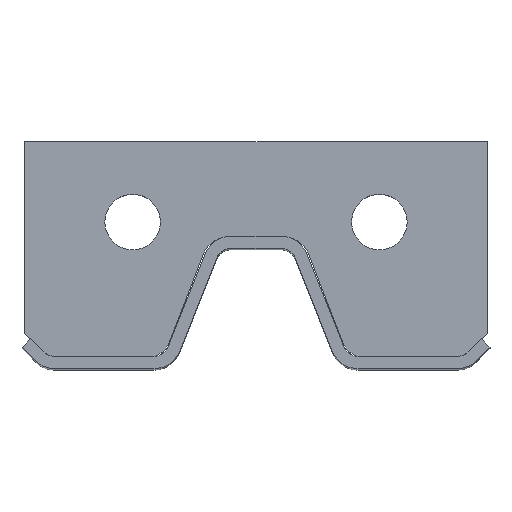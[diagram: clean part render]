
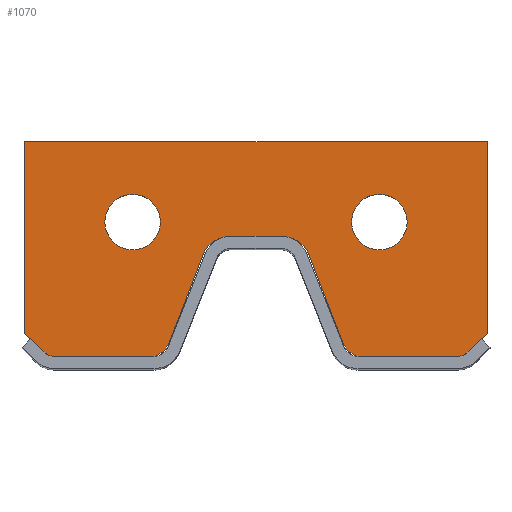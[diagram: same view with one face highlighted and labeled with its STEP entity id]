
A CAD part, top view. The second image highlights one B-rep face of the part: STEP entity #1070.
In plain terms, the highlighted planar face has unit normal (0, 0, 1).
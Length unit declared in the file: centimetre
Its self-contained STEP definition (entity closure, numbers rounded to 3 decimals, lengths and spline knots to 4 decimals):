
#40=FACE_BOUND('',#107,.T.);
#41=FACE_BOUND('',#108,.T.);
#52=FACE_OUTER_BOUND('',#106,.T.);
#106=EDGE_LOOP('',(#716,#717,#718,#719,#720,#721,#722,#723,#724,#725,#726,
#727,#728,#729,#730,#731,#732,#733));
#107=EDGE_LOOP('',(#734));
#108=EDGE_LOOP('',(#735));
#172=CIRCLE('',#1127,0.8);
#173=CIRCLE('',#1128,0.8);
#174=CIRCLE('',#1129,0.8);
#175=CIRCLE('',#1130,0.8);
#176=CIRCLE('',#1131,0.8);
#177=CIRCLE('',#1132,0.8);
#178=CIRCLE('',#1133,0.9);
#179=CIRCLE('',#1134,0.9);
#220=LINE('',#1552,#334);
#221=LINE('',#1554,#335);
#222=LINE('',#1556,#336);
#223=LINE('',#1560,#337);
#224=LINE('',#1564,#338);
#225=LINE('',#1568,#339);
#226=LINE('',#1570,#340);
#227=LINE('',#1572,#341);
#228=LINE('',#1576,#342);
#229=LINE('',#1580,#343);
#230=LINE('',#1584,#344);
#231=LINE('',#1585,#345);
#334=VECTOR('',#1232,0.1);
#335=VECTOR('',#1233,0.1);
#336=VECTOR('',#1234,0.1);
#337=VECTOR('',#1237,0.1);
#338=VECTOR('',#1240,0.1);
#339=VECTOR('',#1243,0.1);
#340=VECTOR('',#1244,0.1);
#341=VECTOR('',#1245,0.1);
#342=VECTOR('',#1248,0.1);
#343=VECTOR('',#1251,0.1);
#344=VECTOR('',#1254,0.1);
#345=VECTOR('',#1255,0.1);
#448=VERTEX_POINT('',#1550);
#449=VERTEX_POINT('',#1551);
#450=VERTEX_POINT('',#1553);
#451=VERTEX_POINT('',#1555);
#452=VERTEX_POINT('',#1557);
#453=VERTEX_POINT('',#1559);
#454=VERTEX_POINT('',#1561);
#455=VERTEX_POINT('',#1563);
#456=VERTEX_POINT('',#1565);
#457=VERTEX_POINT('',#1567);
#458=VERTEX_POINT('',#1569);
#459=VERTEX_POINT('',#1571);
#460=VERTEX_POINT('',#1573);
#461=VERTEX_POINT('',#1575);
#462=VERTEX_POINT('',#1577);
#463=VERTEX_POINT('',#1579);
#464=VERTEX_POINT('',#1581);
#465=VERTEX_POINT('',#1583);
#466=VERTEX_POINT('',#1586);
#467=VERTEX_POINT('',#1588);
#554=EDGE_CURVE('',#448,#449,#220,.T.);
#555=EDGE_CURVE('',#449,#450,#221,.T.);
#556=EDGE_CURVE('',#450,#451,#222,.T.);
#557=EDGE_CURVE('',#451,#452,#172,.T.);
#558=EDGE_CURVE('',#453,#452,#223,.T.);
#559=EDGE_CURVE('',#453,#454,#173,.T.);
#560=EDGE_CURVE('',#454,#455,#224,.T.);
#561=EDGE_CURVE('',#455,#456,#174,.T.);
#562=EDGE_CURVE('',#456,#457,#225,.T.);
#563=EDGE_CURVE('',#458,#457,#226,.T.);
#564=EDGE_CURVE('',#458,#459,#227,.T.);
#565=EDGE_CURVE('',#459,#460,#175,.T.);
#566=EDGE_CURVE('',#460,#461,#228,.T.);
#567=EDGE_CURVE('',#461,#462,#176,.T.);
#568=EDGE_CURVE('',#463,#462,#229,.T.);
#569=EDGE_CURVE('',#463,#464,#177,.T.);
#570=EDGE_CURVE('',#464,#465,#230,.T.);
#571=EDGE_CURVE('',#465,#448,#231,.T.);
#572=EDGE_CURVE('',#466,#466,#178,.T.);
#573=EDGE_CURVE('',#467,#467,#179,.T.);
#716=ORIENTED_EDGE('',*,*,#554,.T.);
#717=ORIENTED_EDGE('',*,*,#555,.T.);
#718=ORIENTED_EDGE('',*,*,#556,.T.);
#719=ORIENTED_EDGE('',*,*,#557,.T.);
#720=ORIENTED_EDGE('',*,*,#558,.F.);
#721=ORIENTED_EDGE('',*,*,#559,.T.);
#722=ORIENTED_EDGE('',*,*,#560,.T.);
#723=ORIENTED_EDGE('',*,*,#561,.T.);
#724=ORIENTED_EDGE('',*,*,#562,.T.);
#725=ORIENTED_EDGE('',*,*,#563,.F.);
#726=ORIENTED_EDGE('',*,*,#564,.T.);
#727=ORIENTED_EDGE('',*,*,#565,.T.);
#728=ORIENTED_EDGE('',*,*,#566,.T.);
#729=ORIENTED_EDGE('',*,*,#567,.T.);
#730=ORIENTED_EDGE('',*,*,#568,.F.);
#731=ORIENTED_EDGE('',*,*,#569,.T.);
#732=ORIENTED_EDGE('',*,*,#570,.T.);
#733=ORIENTED_EDGE('',*,*,#571,.T.);
#734=ORIENTED_EDGE('',*,*,#572,.T.);
#735=ORIENTED_EDGE('',*,*,#573,.T.);
#1040=PLANE('',#1126);
#1070=ADVANCED_FACE('',(#52,#40,#41),#1040,.T.);
#1126=AXIS2_PLACEMENT_3D('',#1549,#1230,#1231);
#1127=AXIS2_PLACEMENT_3D('',#1558,#1235,#1236);
#1128=AXIS2_PLACEMENT_3D('',#1562,#1238,#1239);
#1129=AXIS2_PLACEMENT_3D('',#1566,#1241,#1242);
#1130=AXIS2_PLACEMENT_3D('',#1574,#1246,#1247);
#1131=AXIS2_PLACEMENT_3D('',#1578,#1249,#1250);
#1132=AXIS2_PLACEMENT_3D('',#1582,#1252,#1253);
#1133=AXIS2_PLACEMENT_3D('',#1587,#1256,#1257);
#1134=AXIS2_PLACEMENT_3D('',#1589,#1258,#1259);
#1230=DIRECTION('center_axis',(0.,0.,1.));
#1231=DIRECTION('ref_axis',(1.,0.,0.));
#1232=DIRECTION('',(-1.,0.,0.));
#1233=DIRECTION('',(0.,-1.,0.));
#1234=DIRECTION('',(0.707,-0.707,0.));
#1235=DIRECTION('center_axis',(0.,0.,1.));
#1236=DIRECTION('ref_axis',(-0.707,-0.707,0.));
#1237=DIRECTION('',(-1.,0.,0.));
#1238=DIRECTION('center_axis',(0.,0.,1.));
#1239=DIRECTION('ref_axis',(0.,-1.,0.));
#1240=DIRECTION('',(0.359,0.933,0.));
#1241=DIRECTION('center_axis',(0.,0.,-1.));
#1242=DIRECTION('ref_axis',(-0.933,0.359,0.));
#1243=DIRECTION('',(1.,0.,0.));
#1244=DIRECTION('',(-1.,0.,0.));
#1245=DIRECTION('',(1.,0.,0.));
#1246=DIRECTION('center_axis',(0.,0.,-1.));
#1247=DIRECTION('ref_axis',(0.,1.,0.));
#1248=DIRECTION('',(0.359,-0.933,0.));
#1249=DIRECTION('center_axis',(0.,0.,1.));
#1250=DIRECTION('ref_axis',(-0.933,-0.359,0.));
#1251=DIRECTION('',(-1.,0.,0.));
#1252=DIRECTION('center_axis',(0.,0.,1.));
#1253=DIRECTION('ref_axis',(0.,-1.,0.));
#1254=DIRECTION('',(0.707,0.707,0.));
#1255=DIRECTION('',(0.,1.,0.));
#1256=DIRECTION('center_axis',(0.,0.,-1.));
#1257=DIRECTION('ref_axis',(1.,0.,0.));
#1258=DIRECTION('center_axis',(0.,0.,-1.));
#1259=DIRECTION('ref_axis',(1.,0.,0.));
#1549=CARTESIAN_POINT('Origin',(-115.9958,99.8304,1.));
#1550=CARTESIAN_POINT('',(-108.4958,103.0396,1.));
#1551=CARTESIAN_POINT('',(-123.4958,103.0396,1.));
#1552=CARTESIAN_POINT('',(-108.4958,103.0396,1.));
#1553=CARTESIAN_POINT('',(-123.4958,96.8396,1.));
#1554=CARTESIAN_POINT('',(-123.4958,103.0396,1.));
#1555=CARTESIAN_POINT('',(-122.9301,96.2739,1.));
#1556=CARTESIAN_POINT('',(-123.4958,96.8396,1.));
#1557=CARTESIAN_POINT('',(-122.3644,96.0396,1.));
#1558=CARTESIAN_POINT('Origin',(-122.3644,96.8396,1.));
#1559=CARTESIAN_POINT('',(-119.5452,96.0396,1.));
#1560=CARTESIAN_POINT('',(-119.2584,96.0396,1.));
#1561=CARTESIAN_POINT('',(-118.7985,96.5524,1.));
#1562=CARTESIAN_POINT('Origin',(-119.5452,96.8396,1.));
#1563=CARTESIAN_POINT('',(-117.693,99.4268,1.));
#1564=CARTESIAN_POINT('',(-118.7985,96.5524,1.));
#1565=CARTESIAN_POINT('',(-116.9463,99.9396,1.));
#1566=CARTESIAN_POINT('Origin',(-116.9463,99.1396,1.));
#1567=CARTESIAN_POINT('',(-116.8064,99.9396,1.));
#1568=CARTESIAN_POINT('',(-116.9463,99.9396,1.));
#1569=CARTESIAN_POINT('',(-115.1851,99.9396,1.));
#1570=CARTESIAN_POINT('',(-116.4011,99.9396,1.));
#1571=CARTESIAN_POINT('',(-115.0452,99.9396,1.));
#1572=CARTESIAN_POINT('',(-116.9463,99.9396,1.));
#1573=CARTESIAN_POINT('',(-114.2985,99.4268,1.));
#1574=CARTESIAN_POINT('Origin',(-115.0452,99.1396,1.));
#1575=CARTESIAN_POINT('',(-113.193,96.5524,1.));
#1576=CARTESIAN_POINT('',(-114.2985,99.4268,1.));
#1577=CARTESIAN_POINT('',(-112.4463,96.0396,1.));
#1578=CARTESIAN_POINT('Origin',(-112.4463,96.8396,1.));
#1579=CARTESIAN_POINT('',(-109.6271,96.0396,1.));
#1580=CARTESIAN_POINT('',(-114.3404,96.0396,1.));
#1581=CARTESIAN_POINT('',(-109.0614,96.2739,1.));
#1582=CARTESIAN_POINT('Origin',(-109.6271,96.8396,1.));
#1583=CARTESIAN_POINT('',(-108.4958,96.8396,1.));
#1584=CARTESIAN_POINT('',(-109.0614,96.2739,1.));
#1585=CARTESIAN_POINT('',(-108.4958,96.8396,1.));
#1586=CARTESIAN_POINT('',(-120.8958,100.4396,1.));
#1587=CARTESIAN_POINT('Origin',(-119.9958,100.4396,1.));
#1588=CARTESIAN_POINT('',(-112.8958,100.4396,1.));
#1589=CARTESIAN_POINT('Origin',(-111.9958,100.4396,1.));
